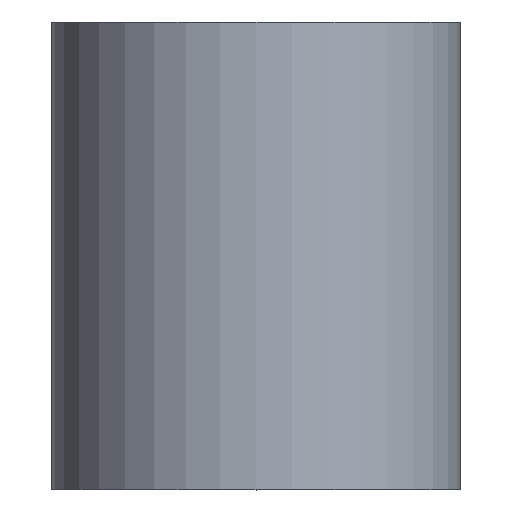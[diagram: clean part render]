
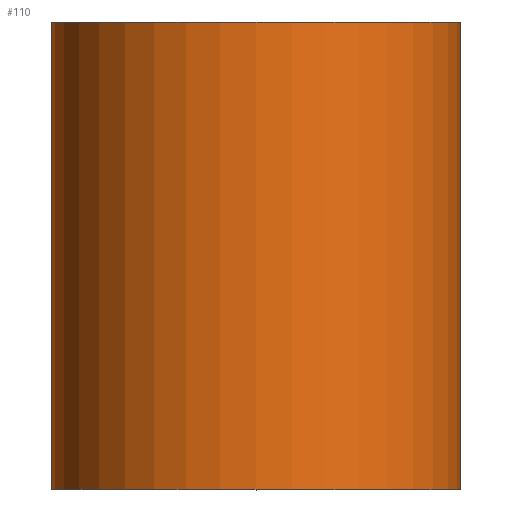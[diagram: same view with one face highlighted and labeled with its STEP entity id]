
A CAD part, top view. The second image highlights one B-rep face of the part: STEP entity #110.
In plain terms, the highlighted cylindrical face has radius 3.5 mm (diameter 7 mm), a partial arc.
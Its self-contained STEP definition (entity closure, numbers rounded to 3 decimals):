
#2 = CARTESIAN_POINT ( 'NONE',  ( 0., 0., 0. ) ) ;
#12 = CARTESIAN_POINT ( 'NONE',  ( -3.5, 0., 0. ) ) ;
#14 = CIRCLE ( 'NONE', #261, 3.5 ) ;
#21 = VERTEX_POINT ( 'NONE', #258 ) ;
#26 = ORIENTED_EDGE ( 'NONE', *, *, #300, .T. ) ;
#33 = DIRECTION ( 'NONE',  ( -1., 0., 0. ) ) ;
#35 = ORIENTED_EDGE ( 'NONE', *, *, #73, .F. ) ;
#40 = LINE ( 'NONE', #12, #113 ) ;
#73 = EDGE_CURVE ( 'NONE', #178, #93, #40, .T. ) ;
#93 = VERTEX_POINT ( 'NONE', #175 ) ;
#100 = CARTESIAN_POINT ( 'NONE',  ( 3.5, 0., 0. ) ) ;
#107 = CARTESIAN_POINT ( 'NONE',  ( -3.5, 0., 0. ) ) ;
#110 = ADVANCED_FACE ( 'NONE', ( #159 ), #177, .T. ) ;
#111 = VECTOR ( 'NONE', #147, 1000. ) ;
#113 = VECTOR ( 'NONE', #155, 1000. ) ;
#117 = LINE ( 'NONE', #100, #111 ) ;
#147 = DIRECTION ( 'NONE',  ( 0., 1., 0. ) ) ;
#149 = DIRECTION ( 'NONE',  ( 0., 1., 0. ) ) ;
#152 = CIRCLE ( 'NONE', #157, 3.5 ) ;
#155 = DIRECTION ( 'NONE',  ( 0., 1., 0. ) ) ;
#157 = AXIS2_PLACEMENT_3D ( 'NONE', #2, #149, #33 ) ;
#158 = DIRECTION ( 'NONE',  ( -1., 0., 0. ) ) ;
#159 = FACE_OUTER_BOUND ( 'NONE', #195, .T. ) ;
#175 = CARTESIAN_POINT ( 'NONE',  ( -3.5, 8., 0. ) ) ;
#177 = CYLINDRICAL_SURFACE ( 'NONE', #235, 3.5 ) ;
#178 = VERTEX_POINT ( 'NONE', #107 ) ;
#181 = DIRECTION ( 'NONE',  ( 0., 1., 0. ) ) ;
#185 = CARTESIAN_POINT ( 'NONE',  ( 0., 0., 0. ) ) ;
#193 = ORIENTED_EDGE ( 'NONE', *, *, #249, .F. ) ;
#195 = EDGE_LOOP ( 'NONE', ( #251, #26, #193, #35 ) ) ;
#196 = DIRECTION ( 'NONE',  ( -1., 0., 0. ) ) ;
#220 = DIRECTION ( 'NONE',  ( 0., 1., 0. ) ) ;
#235 = AXIS2_PLACEMENT_3D ( 'NONE', #185, #181, #158 ) ;
#245 = CARTESIAN_POINT ( 'NONE',  ( 0., 8., 0. ) ) ;
#249 = EDGE_CURVE ( 'NONE', #93, #267, #14, .T. ) ;
#251 = ORIENTED_EDGE ( 'NONE', *, *, #297, .T. ) ;
#258 = CARTESIAN_POINT ( 'NONE',  ( 3.5, 0., 0. ) ) ;
#261 = AXIS2_PLACEMENT_3D ( 'NONE', #245, #220, #196 ) ;
#267 = VERTEX_POINT ( 'NONE', #282 ) ;
#282 = CARTESIAN_POINT ( 'NONE',  ( 3.5, 8., 0. ) ) ;
#297 = EDGE_CURVE ( 'NONE', #178, #21, #152, .T. ) ;
#300 = EDGE_CURVE ( 'NONE', #21, #267, #117, .T. ) ;
